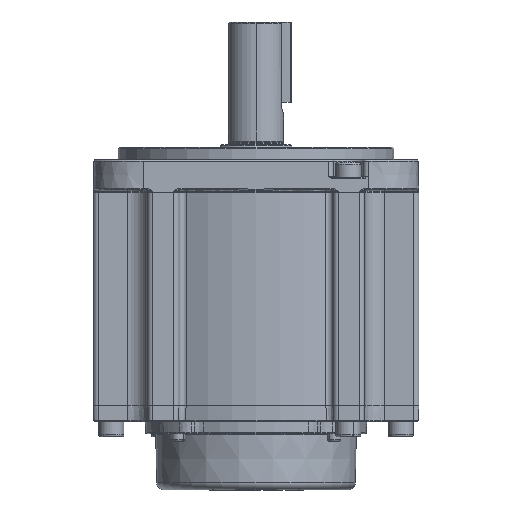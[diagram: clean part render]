
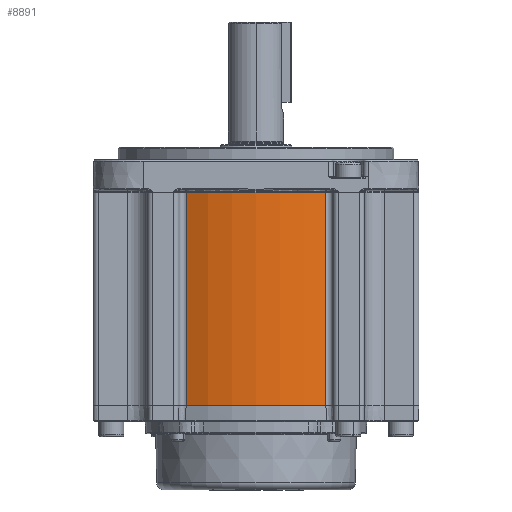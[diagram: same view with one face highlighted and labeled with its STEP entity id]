
A CAD part, front view. The second image highlights one B-rep face of the part: STEP entity #8891.
In plain terms, the highlighted cylindrical face has radius 64.5 mm (diameter 129 mm), a partial arc.
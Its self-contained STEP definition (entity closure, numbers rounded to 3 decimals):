
#4345 = VERTEX_POINT ( 'NONE', #34244 ) ;
#4687 = DIRECTION ( 'NONE',  ( 1., 0., 0. ) ) ;
#5968 = EDGE_CURVE ( 'NONE', #10313, #4345, #22978, .T. ) ;
#7512 = DIRECTION ( 'NONE',  ( 0., 0., -1. ) ) ;
#7672 = CARTESIAN_POINT ( 'NONE',  ( -27.9, -58.154, -43.5 ) ) ;
#7767 = CARTESIAN_POINT ( 'NONE',  ( 0., 0., -43.5 ) ) ;
#8891 = ADVANCED_FACE ( 'NONE', ( #31013 ), #10243, .T. ) ;
#10243 = CYLINDRICAL_SURFACE ( 'NONE', #20529, 64.5 ) ;
#10313 = VERTEX_POINT ( 'NONE', #39015 ) ;
#12245 = ORIENTED_EDGE ( 'NONE', *, *, #36598, .T. ) ;
#12998 = ORIENTED_EDGE ( 'NONE', *, *, #20780, .F. ) ;
#13093 = CARTESIAN_POINT ( 'NONE',  ( 0., 0., 42.5 ) ) ;
#15189 = DIRECTION ( 'NONE',  ( 0., 1., 0. ) ) ;
#16400 = AXIS2_PLACEMENT_3D ( 'NONE', #13093, #40474, #17050 ) ;
#16635 = DIRECTION ( 'NONE',  ( 0., 0., 1. ) ) ;
#17050 = DIRECTION ( 'NONE',  ( 0., -1., 0. ) ) ;
#20003 = LINE ( 'NONE', #40024, #39594 ) ;
#20529 = AXIS2_PLACEMENT_3D ( 'NONE', #7767, #16635, #4687 ) ;
#20780 = EDGE_CURVE ( 'NONE', #21530, #42029, #29853, .T. ) ;
#21530 = VERTEX_POINT ( 'NONE', #42610 ) ;
#22978 = CIRCLE ( 'NONE', #49913, 64.5 ) ;
#25560 = LINE ( 'NONE', #7672, #34784 ) ;
#25572 = ORIENTED_EDGE ( 'NONE', *, *, #50669, .T. ) ;
#29853 = CIRCLE ( 'NONE', #16400, 64.5 ) ;
#31013 = FACE_OUTER_BOUND ( 'NONE', #46277, .T. ) ;
#34244 = CARTESIAN_POINT ( 'NONE',  ( -27.9, -58.154, -42.5 ) ) ;
#34784 = VECTOR ( 'NONE', #7512, 1000. ) ;
#36598 = EDGE_CURVE ( 'NONE', #21530, #4345, #25560, .T. ) ;
#38848 = CARTESIAN_POINT ( 'NONE',  ( 0., 0., -42.5 ) ) ;
#39015 = CARTESIAN_POINT ( 'NONE',  ( 27.9, -58.154, -42.5 ) ) ;
#39594 = VECTOR ( 'NONE', #43980, 1000. ) ;
#40024 = CARTESIAN_POINT ( 'NONE',  ( 27.9, -58.154, -43.5 ) ) ;
#40474 = DIRECTION ( 'NONE',  ( 0., 0., 1. ) ) ;
#40510 = CARTESIAN_POINT ( 'NONE',  ( 27.9, -58.154, 42.5 ) ) ;
#42029 = VERTEX_POINT ( 'NONE', #40510 ) ;
#42229 = ORIENTED_EDGE ( 'NONE', *, *, #5968, .F. ) ;
#42610 = CARTESIAN_POINT ( 'NONE',  ( -27.9, -58.154, 42.5 ) ) ;
#43980 = DIRECTION ( 'NONE',  ( 0., 0., 1. ) ) ;
#46277 = EDGE_LOOP ( 'NONE', ( #42229, #25572, #12998, #12245 ) ) ;
#49913 = AXIS2_PLACEMENT_3D ( 'NONE', #38848, #50513, #15189 ) ;
#50513 = DIRECTION ( 'NONE',  ( 0., 0., -1. ) ) ;
#50669 = EDGE_CURVE ( 'NONE', #10313, #42029, #20003, .T. ) ;
